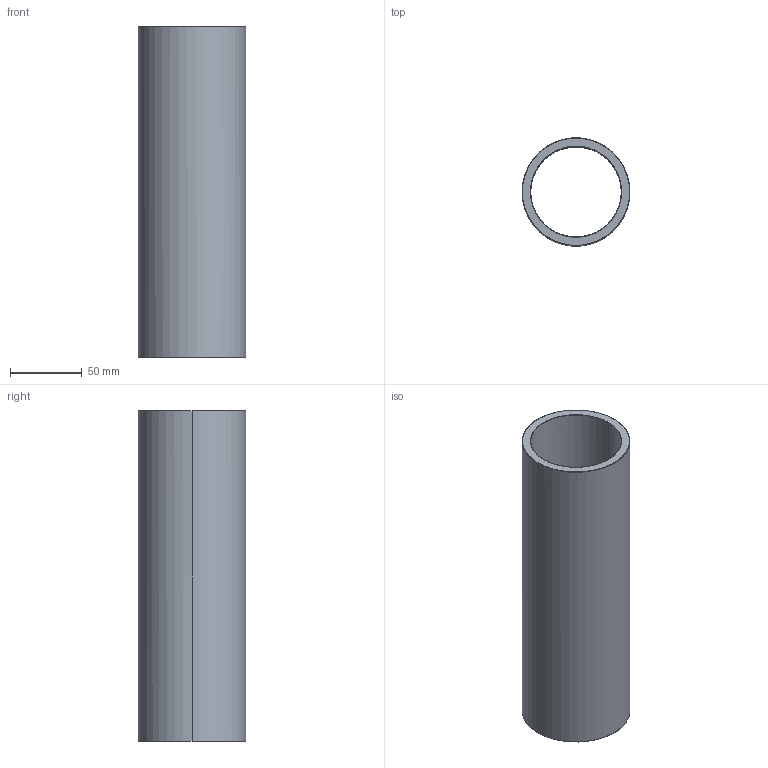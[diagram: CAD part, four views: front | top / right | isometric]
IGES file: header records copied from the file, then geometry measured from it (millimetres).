
Start section: Write IGES format                                    datakit 2008 (c)
Global section: file name: Unknown; native system: DATAKIT Converter; preprocessor: Unknown; author: Unknown; organization: Unknown; date: 950613.180003; units: millimetre
Bounding box: 75 x 74.77 x 230 mm (x, y, z)
Surface area: 102213.8 mm2 (no closed solid volume)
Topology: 0 solids, 0 shells, 14 faces, 56 edges, 56 vertices
Faces by surface type: revolution 12, bspline 2
